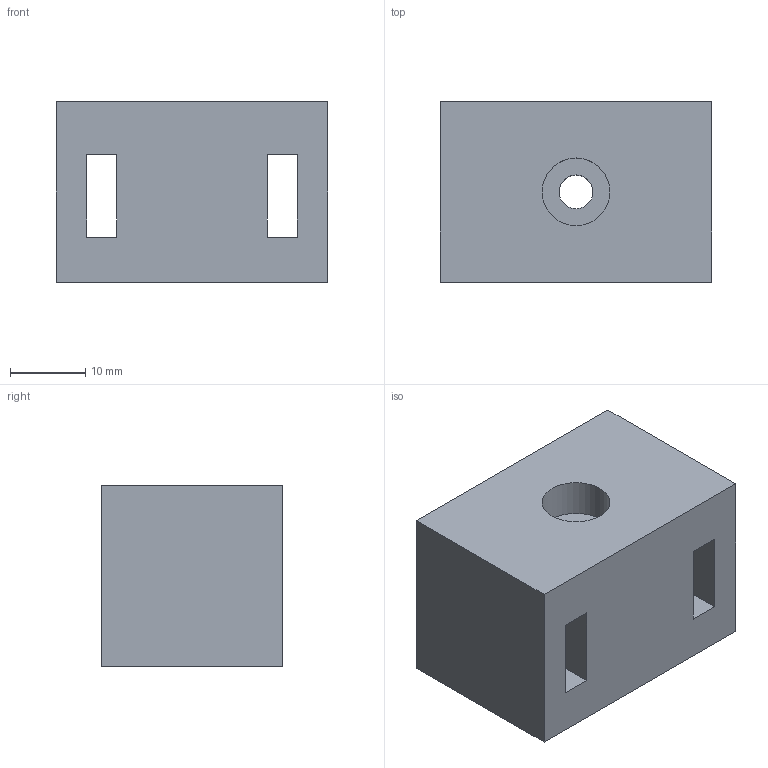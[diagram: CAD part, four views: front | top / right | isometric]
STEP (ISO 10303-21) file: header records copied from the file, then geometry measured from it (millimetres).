
FILE_DESCRIPTION(('Open CASCADE Model'),'2;1');
FILE_NAME('Open CASCADE Shape Model','2026-10-26T17:58:52',('Author'),( 'Open CASCADE'),'Open CASCADE STEP processor 7.9','Open CASCADE 7.9' ,'Unknown');
FILE_SCHEMA(('AUTOMOTIVE_DESIGN { 1 0 10303 214 1 1 1 1 }'));
Length unit declared in the file: millimetre
Products named in the file (1): Open CASCADE STEP translator 7.9 15
Bounding box: 36 x 24 x 24 mm (x, y, z)
Volume: 18003.7 mm3; surface area: 6250.2 mm2
Topology: 1 solids, 1 shells, 17 faces, 42 edges, 28 vertices
Faces by surface type: plane 15, cylinder 2
Full cylindrical faces by diameter (mm): 4.5 x1, 9 x1
Entity records: 1036 total; most frequent: CARTESIAN_POINT 204, DIRECTION 134, LINE 86, VECTOR 86, ORIENTED_EDGE 84, PCURVE 84, DEFINITIONAL_REPRESENTATION 84, EDGE_CURVE 42
